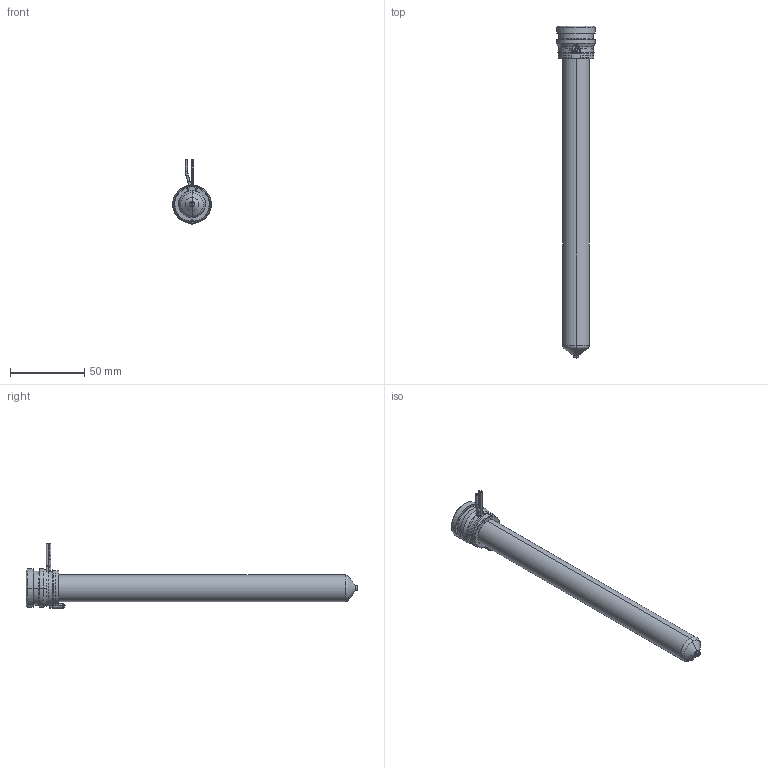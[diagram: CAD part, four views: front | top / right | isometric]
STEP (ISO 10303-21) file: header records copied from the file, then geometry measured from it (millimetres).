
FILE_DESCRIPTION((''),'2;1');
FILE_NAME('MPN-08-24-VP3-206-A','2026-02-05T12:02:46',('UPTIO'),('Thermoplay S.p.A.'),'CREO PARAMETRIC BY PTC INC, 2023494','CREO PARAMETRIC BY PTC INC, 2023494','');
FILE_SCHEMA(('CONFIG_CONTROL_DESIGN','SHAPE_APPEARANCE_LAYERS_GROUPS'));
Length unit declared in the file: millimetre
Products named in the file (1): MPN-08-24-VP3-206-A
Bounding box: 26 x 224.1 x 43.5 mm (x, y, z)
Volume: 41399.1 mm3; surface area: 54790 mm2
Topology: 2 solids, 3 shells, 587 faces, 1560 edges, 971 vertices
Faces by surface type: cylinder 184, plane 143, bspline 108, torus 70, cone 68, sphere 8, extrusion 6
Entity records: 31954 total; most frequent: CARTESIAN_POINT 14720, ORIENTED_EDGE 3104, DIRECTION 2714, EDGE_CURVE 1552, AXIS2_PLACEMENT_3D 1061, VERTEX_POINT 971, EDGE_LOOP 615, VECTOR 592
